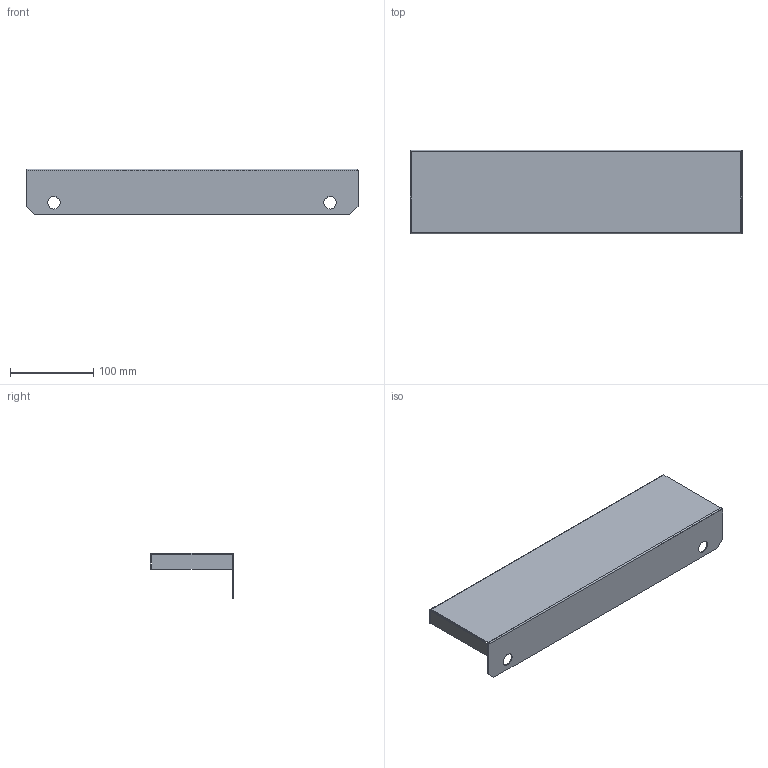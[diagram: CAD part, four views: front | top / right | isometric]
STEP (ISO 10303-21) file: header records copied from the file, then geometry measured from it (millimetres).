
FILE_DESCRIPTION(('CAx-IF Rec.Pracs.---Model Styling and Organization---1.2---2011-12-15','CAx-IF Rec.Pracs.---Geometric and Assembly Validation Properties---4.1---2014-06-16','CAx-IF Rec.Pracs.---PMI Polyline Presentation---2.0---2013-05-24'),'2;1');
FILE_NAME('R5KTS40.stp','2021-05-05T16:27:42+03:00',(''),(''),'STEP Interface 4.4 by CT CoreTechnologie','3D_Evolution4.4 by CT CoreTechnologie','');
FILE_SCHEMA(('AUTOMOTIVE_DESIGN { 1 0 10303 214 1 1 1 1 }'));
Length unit declared in the file: millimetre
Products named in the file (1): R5KTS40
Bounding box: 399 x 100 x 55 mm (x, y, z)
Surface area: 143995.1 mm2 (no closed solid volume)
Topology: 0 solids, 3 shells, 40 faces, 97 edges, 63 vertices
Faces by surface type: plane 28, cylinder 8, bspline 4
Entity records: 1315 total; most frequent: CARTESIAN_POINT 356, ORIENTED_EDGE 194, DIRECTION 177, EDGE_CURVE 97, VECTOR 77, LINE 77, VERTEX_POINT 63, AXIS2_PLACEMENT_3D 50
